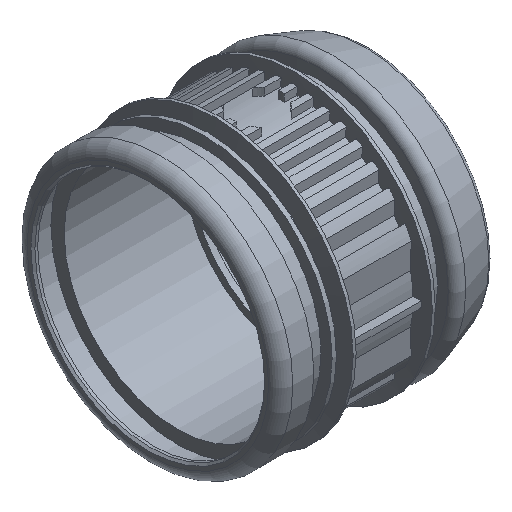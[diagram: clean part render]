
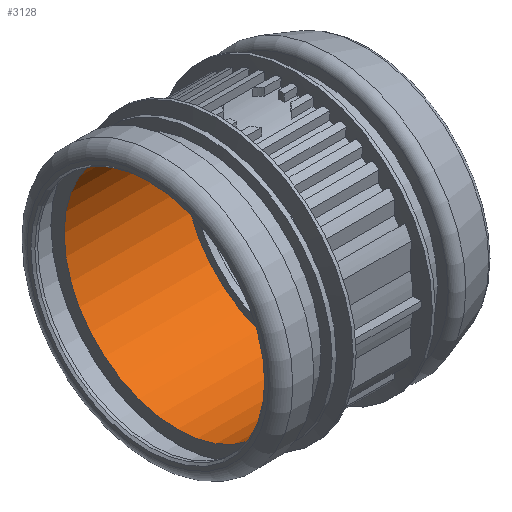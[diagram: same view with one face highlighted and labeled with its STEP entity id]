
A CAD part, isometric view. The second image highlights one B-rep face of the part: STEP entity #3128.
In plain terms, the highlighted cylindrical face has radius 55.75 mm (diameter 111.5 mm), a full revolution.
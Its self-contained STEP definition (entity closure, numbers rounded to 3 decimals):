
#29=FACE_BOUND($,#661,.T.);
#132=CIRCLE($,#3372,55.75);
#133=CIRCLE($,#3373,55.75);
#487=FACE_OUTER_BOUND($,#660,.T.);
#660=EDGE_LOOP($,(#2114));
#661=EDGE_LOOP($,(#2115));
#1299=VERTEX_POINT($,#4905);
#1300=VERTEX_POINT($,#4907);
#1631=EDGE_CURVE($,#1299,#1299,#132,.T.);
#1632=EDGE_CURVE($,#1300,#1300,#133,.T.);
#2114=ORIENTED_EDGE($,*,*,#1631,.F.);
#2115=ORIENTED_EDGE($,*,*,#1632,.T.);
#2857=CYLINDRICAL_SURFACE($,#3371,55.75);
#3128=ADVANCED_FACE($,(#487,#29),#2857,.F.);
#3371=AXIS2_PLACEMENT_3D($,#4904,#3921,#3922);
#3372=AXIS2_PLACEMENT_3D($,#4906,#3923,#3924);
#3373=AXIS2_PLACEMENT_3D($,#4908,#3925,#3926);
#3921=DIRECTION('center_axis',(1.,0.,0.));
#3922=DIRECTION('ref_axis',(0.,1.,0.));
#3923=DIRECTION('center_axis',(1.,0.,0.));
#3924=DIRECTION('ref_axis',(0.,1.,0.));
#3925=DIRECTION('center_axis',(1.,0.,0.));
#3926=DIRECTION('ref_axis',(0.,1.,0.));
#4904=CARTESIAN_POINT('Origin',(43.965,0.,0.));
#4905=CARTESIAN_POINT('',(14.53,55.75,0.));
#4906=CARTESIAN_POINT('Origin',(14.53,0.,0.));
#4907=CARTESIAN_POINT('',(73.4,55.75,0.));
#4908=CARTESIAN_POINT('Origin',(73.4,0.,0.));
